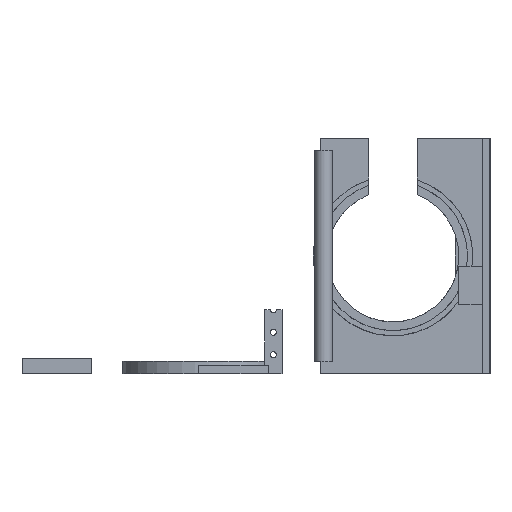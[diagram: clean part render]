
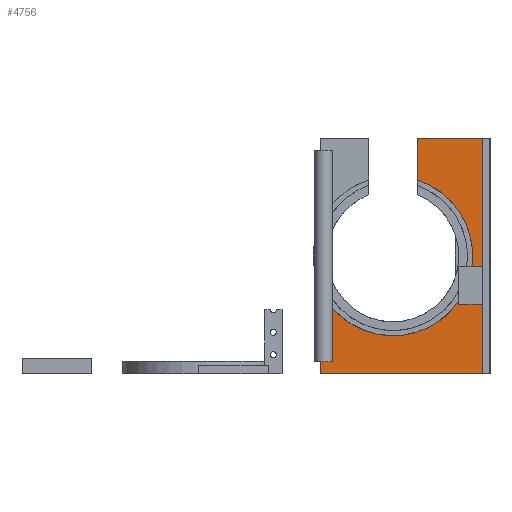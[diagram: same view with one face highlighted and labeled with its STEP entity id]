
A CAD part, left-side view. The second image highlights one B-rep face of the part: STEP entity #4756.
In plain terms, the highlighted planar face has unit normal (-1, 0, 0).
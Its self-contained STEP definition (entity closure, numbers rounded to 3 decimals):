
#66 = PLANE('',#67);
#67 = AXIS2_PLACEMENT_3D('',#68,#69,#70);
#68 = CARTESIAN_POINT('',(116.,0.,0.));
#69 = DIRECTION('',(0.,0.,1.));
#70 = DIRECTION('',(-1.,0.,0.));
#203 = VERTEX_POINT('',#204);
#204 = CARTESIAN_POINT('',(87.,98.,0.));
#218 = PLANE('',#219);
#219 = AXIS2_PLACEMENT_3D('',#220,#221,#222);
#220 = CARTESIAN_POINT('',(92.,98.,0.));
#221 = DIRECTION('',(0.,1.,0.));
#222 = DIRECTION('',(-1.,0.,0.));
#230 = EDGE_CURVE('',#231,#203,#233,.T.);
#231 = VERTEX_POINT('',#232);
#232 = CARTESIAN_POINT('',(87.,4.5,0.));
#233 = SURFACE_CURVE('',#234,(#238,#245),.PCURVE_S1.);
#234 = LINE('',#235,#236);
#235 = CARTESIAN_POINT('',(87.,0.,0.));
#236 = VECTOR('',#237,1.);
#237 = DIRECTION('',(0.,1.,0.));
#238 = PCURVE('',#66,#239);
#239 = DEFINITIONAL_REPRESENTATION('',(#240),#244);
#240 = LINE('',#241,#242);
#241 = CARTESIAN_POINT('',(29.,0.));
#242 = VECTOR('',#243,1.);
#243 = DIRECTION('',(0.,-1.));
#244 = ( GEOMETRIC_REPRESENTATION_CONTEXT(2) 
PARAMETRIC_REPRESENTATION_CONTEXT() REPRESENTATION_CONTEXT('2D SPACE',''
  ) );
#245 = PCURVE('',#246,#251);
#246 = PLANE('',#247);
#247 = AXIS2_PLACEMENT_3D('',#248,#249,#250);
#248 = CARTESIAN_POINT('',(87.,0.,0.));
#249 = DIRECTION('',(-1.,0.,0.));
#250 = DIRECTION('',(0.,0.,1.));
#251 = DEFINITIONAL_REPRESENTATION('',(#252),#256);
#252 = LINE('',#253,#254);
#253 = CARTESIAN_POINT('',(0.,0.));
#254 = VECTOR('',#255,1.);
#255 = DIRECTION('',(0.,1.));
#256 = ( GEOMETRIC_REPRESENTATION_CONTEXT(2) 
PARAMETRIC_REPRESENTATION_CONTEXT() REPRESENTATION_CONTEXT('2D SPACE',''
  ) );
#274 = PLANE('',#275);
#275 = AXIS2_PLACEMENT_3D('',#276,#277,#278);
#276 = CARTESIAN_POINT('',(116.,4.5,0.));
#277 = DIRECTION('',(0.,1.,0.));
#278 = DIRECTION('',(-1.,0.,0.));
#355 = PLANE('',#356);
#356 = AXIS2_PLACEMENT_3D('',#357,#358,#359);
#357 = CARTESIAN_POINT('',(116.,0.,136.));
#358 = DIRECTION('',(0.,0.,1.));
#359 = DIRECTION('',(-1.,0.,0.));
#512 = VERTEX_POINT('',#513);
#513 = CARTESIAN_POINT('',(87.,42.,136.));
#527 = PLANE('',#528);
#528 = AXIS2_PLACEMENT_3D('',#529,#530,#531);
#529 = CARTESIAN_POINT('',(93.,42.,68.));
#530 = DIRECTION('',(0.,1.,0.));
#531 = DIRECTION('',(-1.,0.,0.));
#539 = EDGE_CURVE('',#540,#512,#542,.T.);
#540 = VERTEX_POINT('',#541);
#541 = CARTESIAN_POINT('',(87.,4.5,136.));
#542 = SURFACE_CURVE('',#543,(#547,#554),.PCURVE_S1.);
#543 = LINE('',#544,#545);
#544 = CARTESIAN_POINT('',(87.,0.,136.));
#545 = VECTOR('',#546,1.);
#546 = DIRECTION('',(0.,1.,0.));
#547 = PCURVE('',#355,#548);
#548 = DEFINITIONAL_REPRESENTATION('',(#549),#553);
#549 = LINE('',#550,#551);
#550 = CARTESIAN_POINT('',(29.,0.));
#551 = VECTOR('',#552,1.);
#552 = DIRECTION('',(0.,-1.));
#553 = ( GEOMETRIC_REPRESENTATION_CONTEXT(2) 
PARAMETRIC_REPRESENTATION_CONTEXT() REPRESENTATION_CONTEXT('2D SPACE',''
  ) );
#554 = PCURVE('',#246,#555);
#555 = DEFINITIONAL_REPRESENTATION('',(#556),#560);
#556 = LINE('',#557,#558);
#557 = CARTESIAN_POINT('',(136.,0.));
#558 = VECTOR('',#559,1.);
#559 = DIRECTION('',(0.,1.));
#560 = ( GEOMETRIC_REPRESENTATION_CONTEXT(2) 
PARAMETRIC_REPRESENTATION_CONTEXT() REPRESENTATION_CONTEXT('2D SPACE',''
  ) );
#723 = VERTEX_POINT('',#724);
#724 = CARTESIAN_POINT('',(87.,42.,111.818));
#738 = CYLINDRICAL_SURFACE('',#739,46.);
#739 = AXIS2_PLACEMENT_3D('',#740,#741,#742);
#740 = CARTESIAN_POINT('',(87.,56.,68.));
#741 = DIRECTION('',(-1.,0.,0.));
#742 = DIRECTION('',(0.,0.,1.));
#750 = EDGE_CURVE('',#512,#723,#751,.T.);
#751 = SURFACE_CURVE('',#752,(#756,#763),.PCURVE_S1.);
#752 = LINE('',#753,#754);
#753 = CARTESIAN_POINT('',(87.,42.,34.));
#754 = VECTOR('',#755,1.);
#755 = DIRECTION('',(0.,0.,-1.));
#756 = PCURVE('',#527,#757);
#757 = DEFINITIONAL_REPRESENTATION('',(#758),#762);
#758 = LINE('',#759,#760);
#759 = CARTESIAN_POINT('',(6.,-34.));
#760 = VECTOR('',#761,1.);
#761 = DIRECTION('',(0.,-1.));
#762 = ( GEOMETRIC_REPRESENTATION_CONTEXT(2) 
PARAMETRIC_REPRESENTATION_CONTEXT() REPRESENTATION_CONTEXT('2D SPACE',''
  ) );
#763 = PCURVE('',#246,#764);
#764 = DEFINITIONAL_REPRESENTATION('',(#765),#769);
#765 = LINE('',#766,#767);
#766 = CARTESIAN_POINT('',(34.,42.));
#767 = VECTOR('',#768,1.);
#768 = DIRECTION('',(-1.,0.));
#769 = ( GEOMETRIC_REPRESENTATION_CONTEXT(2) 
PARAMETRIC_REPRESENTATION_CONTEXT() REPRESENTATION_CONTEXT('2D SPACE',''
  ) );
#800 = VERTEX_POINT('',#801);
#801 = CARTESIAN_POINT('',(87.,93.287,41.062));
#829 = CYLINDRICAL_SURFACE('',#830,5.);
#830 = AXIS2_PLACEMENT_3D('',#831,#832,#833);
#831 = CARTESIAN_POINT('',(82.8,96.,7.));
#832 = DIRECTION('',(0.,0.,1.));
#833 = DIRECTION('',(-1.,0.,0.));
#848 = EDGE_CURVE('',#800,#723,#849,.T.);
#849 = SURFACE_CURVE('',#850,(#855,#862),.PCURVE_S1.);
#850 = CIRCLE('',#851,46.);
#851 = AXIS2_PLACEMENT_3D('',#852,#853,#854);
#852 = CARTESIAN_POINT('',(87.,56.,68.));
#853 = DIRECTION('',(-1.,0.,0.));
#854 = DIRECTION('',(0.,0.,1.));
#855 = PCURVE('',#738,#856);
#856 = DEFINITIONAL_REPRESENTATION('',(#857),#861);
#857 = LINE('',#858,#859);
#858 = CARTESIAN_POINT('',(0.,0.));
#859 = VECTOR('',#860,1.);
#860 = DIRECTION('',(1.,0.));
#861 = ( GEOMETRIC_REPRESENTATION_CONTEXT(2) 
PARAMETRIC_REPRESENTATION_CONTEXT() REPRESENTATION_CONTEXT('2D SPACE',''
  ) );
#862 = PCURVE('',#246,#863);
#863 = DEFINITIONAL_REPRESENTATION('',(#864),#868);
#864 = CIRCLE('',#865,46.);
#865 = AXIS2_PLACEMENT_2D('',#866,#867);
#866 = CARTESIAN_POINT('',(68.,56.));
#867 = DIRECTION('',(1.,0.));
#868 = ( GEOMETRIC_REPRESENTATION_CONTEXT(2) 
PARAMETRIC_REPRESENTATION_CONTEXT() REPRESENTATION_CONTEXT('2D SPACE',''
  ) );
#933 = VERTEX_POINT('',#934);
#934 = CARTESIAN_POINT('',(87.,93.287,7.));
#949 = PLANE('',#950);
#950 = AXIS2_PLACEMENT_3D('',#951,#952,#953);
#951 = CARTESIAN_POINT('',(82.8,96.,7.));
#952 = DIRECTION('',(0.,0.,1.));
#953 = DIRECTION('',(-1.,0.,0.));
#965 = EDGE_CURVE('',#933,#800,#966,.T.);
#966 = SURFACE_CURVE('',#967,(#971,#978),.PCURVE_S1.);
#967 = LINE('',#968,#969);
#968 = CARTESIAN_POINT('',(87.,93.287,7.));
#969 = VECTOR('',#970,1.);
#970 = DIRECTION('',(0.,0.,1.));
#971 = PCURVE('',#829,#972);
#972 = DEFINITIONAL_REPRESENTATION('',(#973),#977);
#973 = LINE('',#974,#975);
#974 = CARTESIAN_POINT('',(8.851,0.));
#975 = VECTOR('',#976,1.);
#976 = DIRECTION('',(0.,1.));
#977 = ( GEOMETRIC_REPRESENTATION_CONTEXT(2) 
PARAMETRIC_REPRESENTATION_CONTEXT() REPRESENTATION_CONTEXT('2D SPACE',''
  ) );
#978 = PCURVE('',#246,#979);
#979 = DEFINITIONAL_REPRESENTATION('',(#980),#984);
#980 = LINE('',#981,#982);
#981 = CARTESIAN_POINT('',(7.,93.287));
#982 = VECTOR('',#983,1.);
#983 = DIRECTION('',(1.,0.));
#984 = ( GEOMETRIC_REPRESENTATION_CONTEXT(2) 
PARAMETRIC_REPRESENTATION_CONTEXT() REPRESENTATION_CONTEXT('2D SPACE',''
  ) );
#2181 = VERTEX_POINT('',#2182);
#2182 = CARTESIAN_POINT('',(87.,98.,7.));
#2204 = EDGE_CURVE('',#933,#2181,#2205,.T.);
#2205 = SURFACE_CURVE('',#2206,(#2210,#2217),.PCURVE_S1.);
#2206 = LINE('',#2207,#2208);
#2207 = CARTESIAN_POINT('',(87.,48.,7.));
#2208 = VECTOR('',#2209,1.);
#2209 = DIRECTION('',(0.,1.,0.));
#2210 = PCURVE('',#949,#2211);
#2211 = DEFINITIONAL_REPRESENTATION('',(#2212),#2216);
#2212 = LINE('',#2213,#2214);
#2213 = CARTESIAN_POINT('',(-4.2,48.));
#2214 = VECTOR('',#2215,1.);
#2215 = DIRECTION('',(0.,-1.));
#2216 = ( GEOMETRIC_REPRESENTATION_CONTEXT(2) 
PARAMETRIC_REPRESENTATION_CONTEXT() REPRESENTATION_CONTEXT('2D SPACE',''
  ) );
#2217 = PCURVE('',#246,#2218);
#2218 = DEFINITIONAL_REPRESENTATION('',(#2219),#2223);
#2219 = LINE('',#2220,#2221);
#2220 = CARTESIAN_POINT('',(7.,48.));
#2221 = VECTOR('',#2222,1.);
#2222 = DIRECTION('',(0.,1.));
#2223 = ( GEOMETRIC_REPRESENTATION_CONTEXT(2) 
PARAMETRIC_REPRESENTATION_CONTEXT() REPRESENTATION_CONTEXT('2D SPACE',''
  ) );
#2528 = EDGE_CURVE('',#231,#540,#2529,.T.);
#2529 = SURFACE_CURVE('',#2530,(#2534,#2541),.PCURVE_S1.);
#2530 = LINE('',#2531,#2532);
#2531 = CARTESIAN_POINT('',(87.,4.5,0.));
#2532 = VECTOR('',#2533,1.);
#2533 = DIRECTION('',(0.,0.,1.));
#2534 = PCURVE('',#274,#2535);
#2535 = DEFINITIONAL_REPRESENTATION('',(#2536),#2540);
#2536 = LINE('',#2537,#2538);
#2537 = CARTESIAN_POINT('',(29.,0.));
#2538 = VECTOR('',#2539,1.);
#2539 = DIRECTION('',(0.,1.));
#2540 = ( GEOMETRIC_REPRESENTATION_CONTEXT(2) 
PARAMETRIC_REPRESENTATION_CONTEXT() REPRESENTATION_CONTEXT('2D SPACE',''
  ) );
#2541 = PCURVE('',#246,#2542);
#2542 = DEFINITIONAL_REPRESENTATION('',(#2543),#2547);
#2543 = LINE('',#2544,#2545);
#2544 = CARTESIAN_POINT('',(0.,4.5));
#2545 = VECTOR('',#2546,1.);
#2546 = DIRECTION('',(1.,0.));
#2547 = ( GEOMETRIC_REPRESENTATION_CONTEXT(2) 
PARAMETRIC_REPRESENTATION_CONTEXT() REPRESENTATION_CONTEXT('2D SPACE',''
  ) );
#4756 = ADVANCED_FACE('',(#4757),#246,.T.);
#4757 = FACE_BOUND('',#4758,.T.);
#4758 = EDGE_LOOP('',(#4759,#4760,#4761,#4762,#4783,#4784,#4785,#4786));
#4759 = ORIENTED_EDGE('',*,*,#848,.F.);
#4760 = ORIENTED_EDGE('',*,*,#965,.F.);
#4761 = ORIENTED_EDGE('',*,*,#2204,.T.);
#4762 = ORIENTED_EDGE('',*,*,#4763,.F.);
#4763 = EDGE_CURVE('',#203,#2181,#4764,.T.);
#4764 = SURFACE_CURVE('',#4765,(#4769,#4776),.PCURVE_S1.);
#4765 = LINE('',#4766,#4767);
#4766 = CARTESIAN_POINT('',(87.,98.,0.));
#4767 = VECTOR('',#4768,1.);
#4768 = DIRECTION('',(0.,0.,1.));
#4769 = PCURVE('',#246,#4770);
#4770 = DEFINITIONAL_REPRESENTATION('',(#4771),#4775);
#4771 = LINE('',#4772,#4773);
#4772 = CARTESIAN_POINT('',(0.,98.));
#4773 = VECTOR('',#4774,1.);
#4774 = DIRECTION('',(1.,0.));
#4775 = ( GEOMETRIC_REPRESENTATION_CONTEXT(2) 
PARAMETRIC_REPRESENTATION_CONTEXT() REPRESENTATION_CONTEXT('2D SPACE',''
  ) );
#4776 = PCURVE('',#218,#4777);
#4777 = DEFINITIONAL_REPRESENTATION('',(#4778),#4782);
#4778 = LINE('',#4779,#4780);
#4779 = CARTESIAN_POINT('',(5.,0.));
#4780 = VECTOR('',#4781,1.);
#4781 = DIRECTION('',(0.,1.));
#4782 = ( GEOMETRIC_REPRESENTATION_CONTEXT(2) 
PARAMETRIC_REPRESENTATION_CONTEXT() REPRESENTATION_CONTEXT('2D SPACE',''
  ) );
#4783 = ORIENTED_EDGE('',*,*,#230,.F.);
#4784 = ORIENTED_EDGE('',*,*,#2528,.T.);
#4785 = ORIENTED_EDGE('',*,*,#539,.T.);
#4786 = ORIENTED_EDGE('',*,*,#750,.T.);
